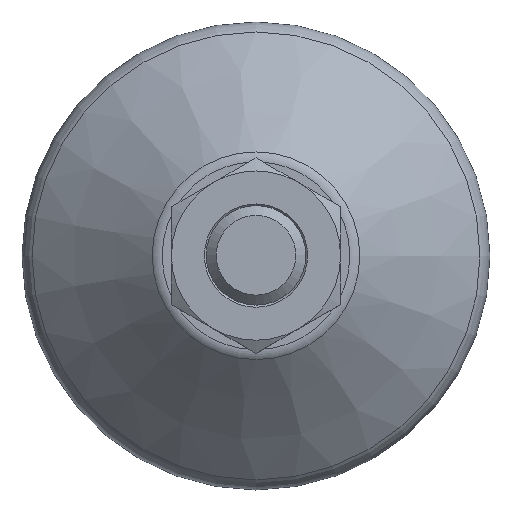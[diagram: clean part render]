
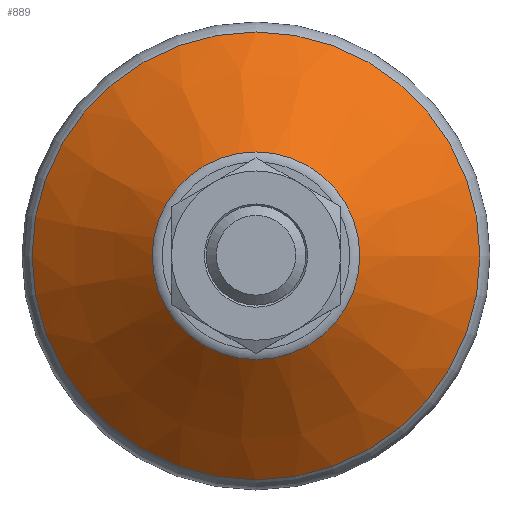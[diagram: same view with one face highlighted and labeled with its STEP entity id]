
A CAD part, top view. The second image highlights one B-rep face of the part: STEP entity #889.
In plain terms, the highlighted conical face has half-angle 48.366 degrees and reference radius 23.5 mm.
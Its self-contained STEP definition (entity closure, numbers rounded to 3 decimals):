
#68=CONICAL_SURFACE('',#962,23.5,0.844);
#132=ORIENTED_EDGE('',*,*,#254,.T.);
#133=ORIENTED_EDGE('',*,*,#255,.T.);
#254=EDGE_CURVE('',#322,#322,#372,.F.);
#255=EDGE_CURVE('',#323,#323,#373,.T.);
#322=VERTEX_POINT('',#1247);
#323=VERTEX_POINT('',#1249);
#372=CIRCLE('',#963,10.426);
#373=CIRCLE('',#964,22.493);
#424=EDGE_LOOP('',(#132));
#425=EDGE_LOOP('',(#133));
#496=FACE_BOUND('',#424,.T.);
#497=FACE_BOUND('',#425,.T.);
#889=ADVANCED_FACE('',(#496,#497),#68,.T.);
#962=AXIS2_PLACEMENT_3D('',#1245,#1081,#1082);
#963=AXIS2_PLACEMENT_3D('',#1246,#1083,#1084);
#964=AXIS2_PLACEMENT_3D('',#1248,#1085,#1086);
#1081=DIRECTION('',(0.,0.,-1.));
#1082=DIRECTION('',(-1.,0.,0.));
#1083=DIRECTION('',(0.,0.,1.));
#1084=DIRECTION('',(1.,0.,0.));
#1085=DIRECTION('',(0.,0.,1.));
#1086=DIRECTION('',(1.,0.,0.));
#1245=CARTESIAN_POINT('',(0.,0.,3.));
#1246=CARTESIAN_POINT('',(0.,0.,14.621));
#1247=CARTESIAN_POINT('',(10.426,0.,14.621));
#1248=CARTESIAN_POINT('',(0.,0.,3.895));
#1249=CARTESIAN_POINT('',(22.493,0.,3.895));
